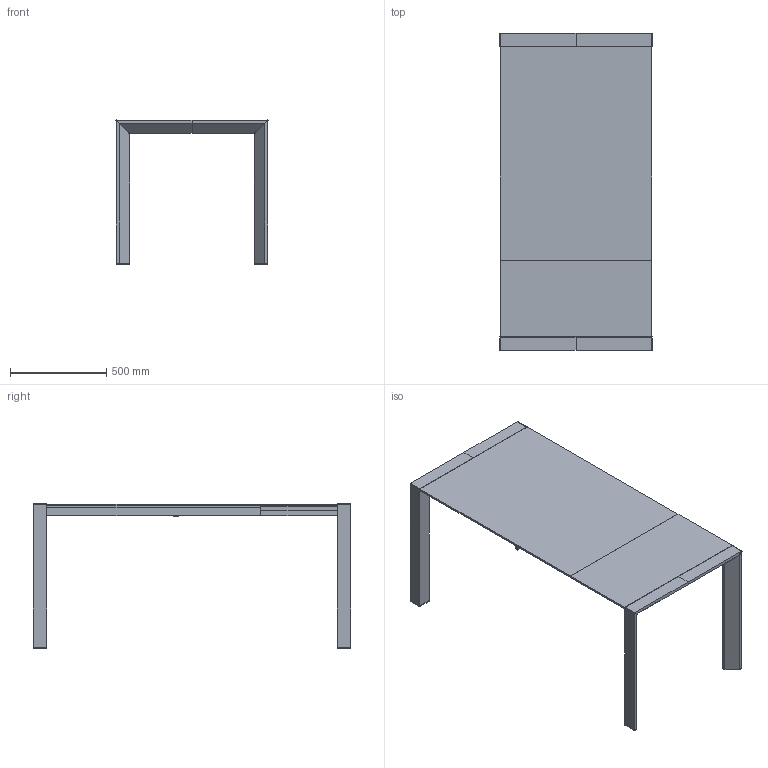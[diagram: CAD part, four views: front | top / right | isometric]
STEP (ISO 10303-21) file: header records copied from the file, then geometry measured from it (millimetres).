
FILE_DESCRIPTION(/* description */ (''),/* implementation_level */ '2;1');
FILE_NAME(/* name */ '10660 - Afill 125+40x79',/* time_stamp */ '2010-11-03T15:10:15+01:00',/* author */ (''),/* organization */ (''),/* preprocessor_version */ 'ST-DEVELOPER v10',/* originating_system */ '',/* authorisation */ '');
FILE_SCHEMA (('CONFIG_CONTROL_DESIGN'));
Length unit declared in the file: centimetre
Products named in the file (1): 1
Bounding box: 792.24 x 1650.6 x 751.1 mm (x, y, z)
Volume: 34455659.4 mm3; surface area: 4570107.1 mm2
Topology: 13 solids, 13 shells, 160 faces, 368 edges, 242 vertices
Faces by surface type: plane 160
Entity records: 4098 total; most frequent: CARTESIAN_POINT 1292, ORIENTED_EDGE 736, EDGE_CURVE 368, B_SPLINE_CURVE_WITH_KNOTS 368, VERTEX_POINT 242, EDGE_LOOP 168, DIRECTION 164, AXIS2_PLACEMENT_3D 162
